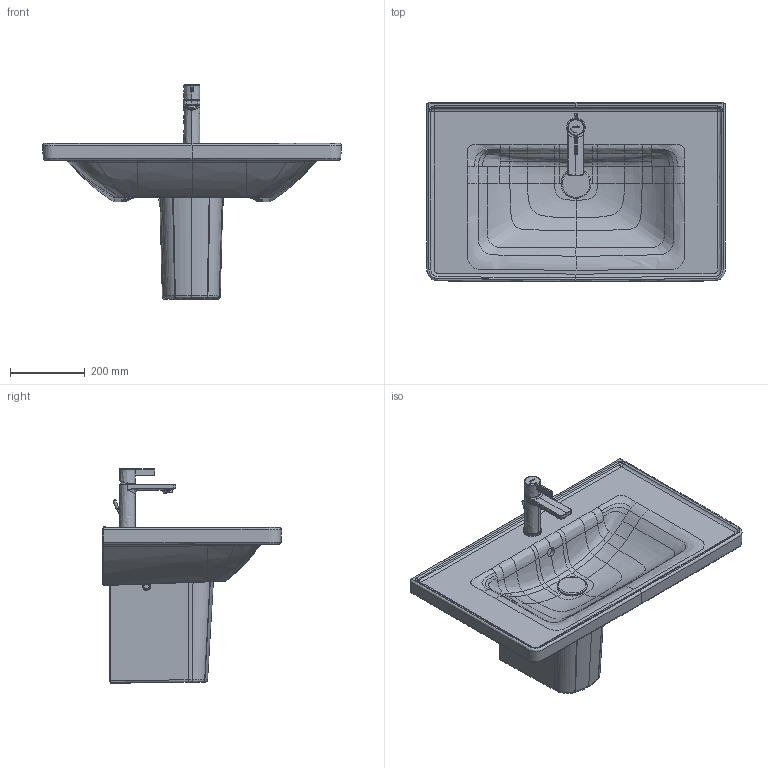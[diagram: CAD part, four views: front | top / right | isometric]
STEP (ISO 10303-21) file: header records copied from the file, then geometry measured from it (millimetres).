
FILE_DESCRIPTION(/* description */ (''),/* implementation_level */ '2;1');
FILE_NAME(/* name */ '236780_085843',/* time_stamp */ '2021-06-21T10:27:07+02:00',/* author */ (''),/* organization */ (''),/* preprocessor_version */ 'ST-DEVELOPER v15',/* originating_system */ '',/* authorisation */ '');
FILE_SCHEMA (('AUTOMOTIVE_DESIGN'));
Length unit declared in the file: millimetre
Products named in the file (1): Document
Bounding box: 800.17 x 480.08 x 574.79 mm (x, y, z)
Volume: 22781018.8 mm3; surface area: 1657246.9 mm2
Topology: 7 solids, 12 shells, 675 faces, 1621 edges, 987 vertices
Faces by surface type: bspline 524, plane 151
Entity records: 93074 total; most frequent: CARTESIAN_POINT 82982, ORIENTED_EDGE 3204, EDGE_CURVE 1609, B_SPLINE_CURVE_WITH_KNOTS 1317, VERTEX_POINT 984, EDGE_LOOP 713, ADVANCED_FACE 672, FACE_OUTER_BOUND 672
